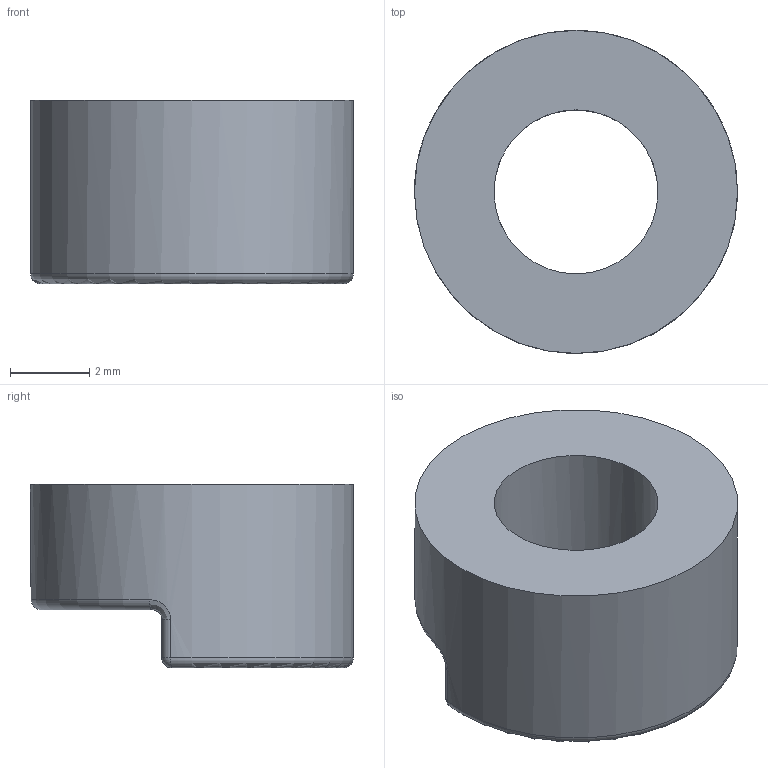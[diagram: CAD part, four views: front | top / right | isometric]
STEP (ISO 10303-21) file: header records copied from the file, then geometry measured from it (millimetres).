
FILE_DESCRIPTION(/* description */ (''),/* implementation_level */ '2;1');
FILE_NAME(/* name */ 'D:\~~GatCad\Ivan''s Printable Fire Control Group (AR15, FGC-9, etc)\STEP\Trigger Stud.stp',/* time_stamp */ '2020-12-30T12:27:16-06:00',/* author */ ('johne'),/* organization */ (''),/* preprocessor_version */ 'ST-DEVELOPER v18',/* originating_system */ 'Autodesk Inventor 2020',/* authorisation */ '');
FILE_SCHEMA (('AUTOMOTIVE_DESIGN { 1 0 10303 214 3 1 1 }'));
Length unit declared in the file: millimetre
Products named in the file (1): Trigger Stud
Bounding box: 8.18 x 8.18 x 4.65 mm (x, y, z)
Volume: 157 mm3; surface area: 236.5 mm2
Topology: 1 solids, 1 shells, 19 faces, 48 edges, 28 vertices
Faces by surface type: cylinder 8, plane 5, torus 2, sphere 2, bspline 2
Full cylindrical faces by diameter (mm): 4.15 x1, 8.179 x1
Entity records: 878 total; most frequent: CARTESIAN_POINT 384, DIRECTION 96, ORIENTED_EDGE 92, EDGE_CURVE 46, AXIS2_PLACEMENT_3D 40, VERTEX_POINT 28, CIRCLE 22, EDGE_LOOP 20
